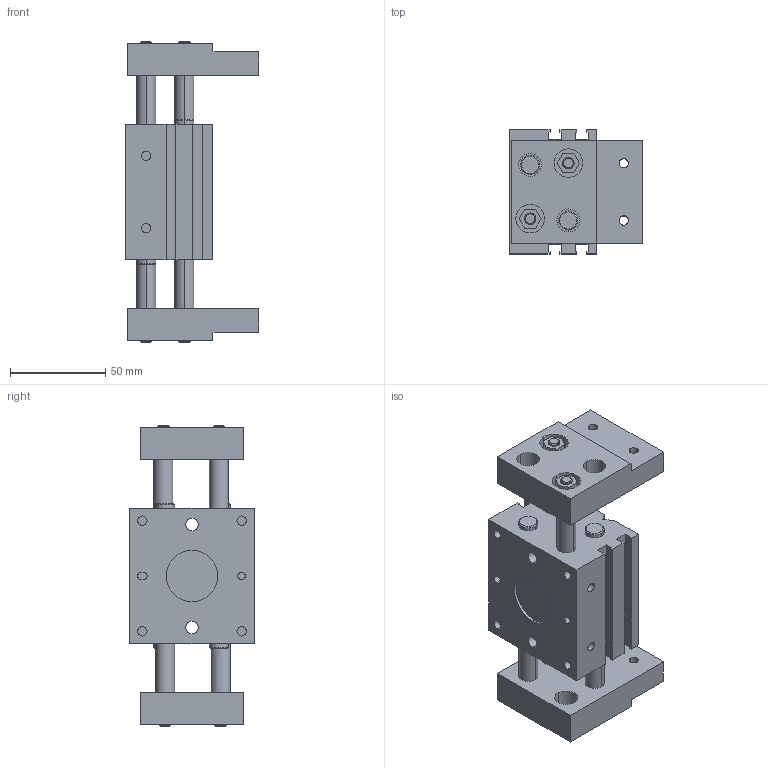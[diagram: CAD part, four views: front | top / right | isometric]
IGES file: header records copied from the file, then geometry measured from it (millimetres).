
Global section: file name: No Iges File Name specified; native system: AutoDesk Inventor R11.0; preprocessor: AutoDesk Inventor Iges Exporter R11.0; author: No Author specified; organization: No Organization specified; date: 20070224.105538; units: millimetre
Bounding box: 70 x 65 x 158 mm (x, y, z)
Volume: 308358.5 mm3; surface area: 76986 mm2
Topology: 3 solids, 3 shells, 203 faces, 494 edges, 324 vertices
Faces by surface type: plane 101, bspline 56, cylinder 16, cone 16, revolution 14
